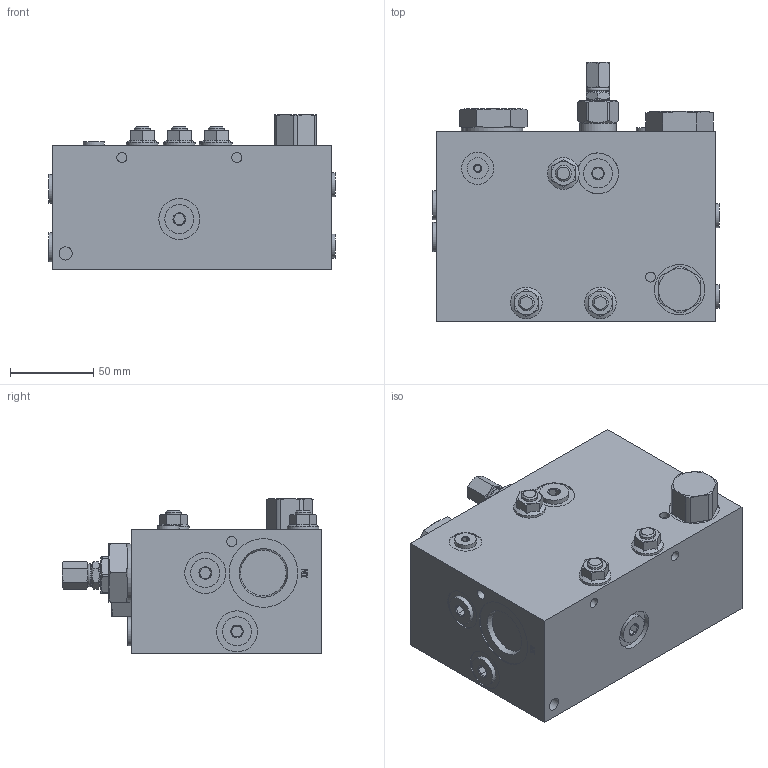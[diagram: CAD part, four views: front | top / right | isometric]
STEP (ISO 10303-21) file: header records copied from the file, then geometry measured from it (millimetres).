
FILE_DESCRIPTION(/* description */ ('INLET ASSY, SHELL','CAx-IF Rec.Pracs.---Representation and Presentation of Product Manufacturing Information (PMI)---3.8---2014-02-18'),/* implementation_level */ '2;1');
FILE_NAME(/* name */ 'C:\Vault\Workspace\RefDataValves\SolidModelShells\WebSolidModelShells\20IC2F.stp',/* time_stamp */ '2017-05-15T08:21:46-05:00',/* author */ ('PetersW'),/* organization */ ('Prince Manufacturing Corporation'),/* preprocessor_version */ 'ST-DEVELOPER v16.1',/* originating_system */ 'Autodesk Inventor 2016',/* authorisation */ '');
FILE_SCHEMA (('AP242_MANAGED_MODEL_BASED_3D_ENGINEERING_MIM_LF { 1 0 10303 442 1 1 4 }'));
Length unit declared in the file: inch
Products named in the file (1): 20IC2F_Shell
Bounding box: 171.86 x 155.63 x 92.86 mm (x, y, z)
Volume: 1453681.1 mm3; surface area: 112667.2 mm2
Topology: 1 solids, 60 shells, 768 faces, 1852 edges, 1205 vertices
Faces by surface type: plane 389, cone 136, cylinder 111, torus 81, bspline 51
Full cylindrical faces by diameter (mm): 1.016 x3, 3.962 x1, 5.994 x5, 6.35 x5, 7.938 x1, 7.95 x2, 9.246 x4, 9.525 x6, 9.931 x3, 12.243 x14, 12.7 x1, 13.462 x3, 13.487 x1, 13.767 x2, 14.3 x2, 15.875 x4, 17.45 x7, 17.805 x3, 18.237 x1, 19.05 x3, 19.304 x1, 19.621 x2, 20.549 x1, 20.574 x1, 20.65 x2, 21.031 x2, 21.717 x1, 21.844 x1, 24.003 x2, 24.613 x6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
Entity records: 21537 total; most frequent: CARTESIAN_POINT 5671, ORIENTED_EDGE 2972, DIRECTION 2936, EDGE_CURVE 1459, EDGE_LOOP 1153, AXIS2_PLACEMENT_3D 1146, VERTEX_POINT 1086, FACE_OUTER_BOUND 768
